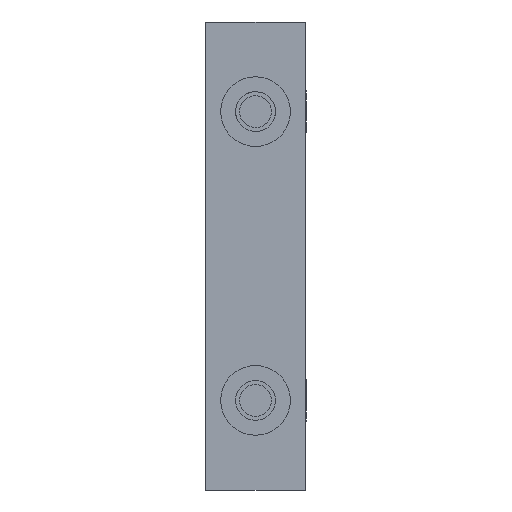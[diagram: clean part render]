
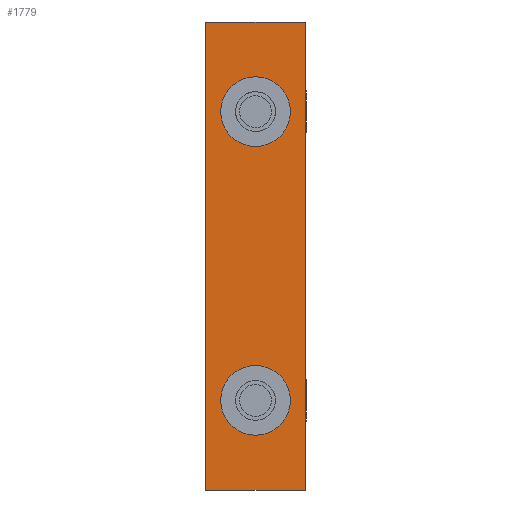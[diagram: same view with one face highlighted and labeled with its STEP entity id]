
A CAD part, front view. The second image highlights one B-rep face of the part: STEP entity #1779.
In plain terms, the highlighted planar face has unit normal (0, -1, 0).
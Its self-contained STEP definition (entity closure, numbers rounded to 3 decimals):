
#257=LINE('',#3052,#441);
#258=LINE('',#3055,#442);
#259=LINE('',#3057,#443);
#260=LINE('',#3058,#444);
#441=VECTOR('',#2326,10.);
#442=VECTOR('',#2329,10.);
#443=VECTOR('',#2330,10.);
#444=VECTOR('',#2331,10.);
#517=PLANE('',#1940);
#542=FACE_BOUND('',#767,.T.);
#543=FACE_BOUND('',#768,.T.);
#645=FACE_OUTER_BOUND('',#766,.T.);
#766=EDGE_LOOP('',(#1643,#1644,#1645,#1646));
#767=EDGE_LOOP('',(#1647));
#768=EDGE_LOOP('',(#1648));
#796=CIRCLE('',#1932,17.5);
#798=CIRCLE('',#1936,17.5);
#952=VERTEX_POINT('',#3029);
#954=VERTEX_POINT('',#3035);
#959=VERTEX_POINT('',#3048);
#960=VERTEX_POINT('',#3050);
#961=VERTEX_POINT('',#3054);
#962=VERTEX_POINT('',#3056);
#1184=EDGE_CURVE('',#952,#952,#796,.T.);
#1186=EDGE_CURVE('',#954,#954,#798,.T.);
#1193=EDGE_CURVE('',#959,#960,#257,.T.);
#1194=EDGE_CURVE('',#959,#961,#258,.T.);
#1195=EDGE_CURVE('',#962,#960,#259,.T.);
#1196=EDGE_CURVE('',#961,#962,#260,.T.);
#1643=ORIENTED_EDGE('',*,*,#1194,.F.);
#1644=ORIENTED_EDGE('',*,*,#1193,.T.);
#1645=ORIENTED_EDGE('',*,*,#1195,.F.);
#1646=ORIENTED_EDGE('',*,*,#1196,.F.);
#1647=ORIENTED_EDGE('',*,*,#1184,.T.);
#1648=ORIENTED_EDGE('',*,*,#1186,.T.);
#1779=ADVANCED_FACE('',(#645,#542,#543),#517,.T.);
#1932=AXIS2_PLACEMENT_3D('',#3030,#2304,#2305);
#1936=AXIS2_PLACEMENT_3D('',#3036,#2312,#2313);
#1940=AXIS2_PLACEMENT_3D('',#3053,#2327,#2328);
#2304=DIRECTION('center_axis',(0.,1.,0.));
#2305=DIRECTION('ref_axis',(-1.,0.,0.));
#2312=DIRECTION('center_axis',(0.,1.,0.));
#2313=DIRECTION('ref_axis',(-1.,0.,0.));
#2326=DIRECTION('',(1.,0.,0.));
#2327=DIRECTION('center_axis',(0.,-1.,0.));
#2328=DIRECTION('ref_axis',(0.,0.,-1.));
#2329=DIRECTION('',(0.,0.,1.));
#2330=DIRECTION('',(0.,0.,-1.));
#2331=DIRECTION('',(1.,0.,0.));
#3029=CARTESIAN_POINT('',(42.5,0.,-45.));
#3030=CARTESIAN_POINT('Origin',(25.,0.,-45.));
#3035=CARTESIAN_POINT('',(42.5,0.,-190.));
#3036=CARTESIAN_POINT('Origin',(25.,0.,-190.));
#3048=CARTESIAN_POINT('',(0.,0.,-235.));
#3050=CARTESIAN_POINT('',(50.,0.,-235.));
#3052=CARTESIAN_POINT('',(0.,0.,-235.));
#3053=CARTESIAN_POINT('Origin',(0.,0.,0.));
#3054=CARTESIAN_POINT('',(0.,0.,0.));
#3055=CARTESIAN_POINT('',(0.,0.,-235.));
#3056=CARTESIAN_POINT('',(50.,0.,0.));
#3057=CARTESIAN_POINT('',(50.,0.,-235.));
#3058=CARTESIAN_POINT('',(0.,0.,0.));
